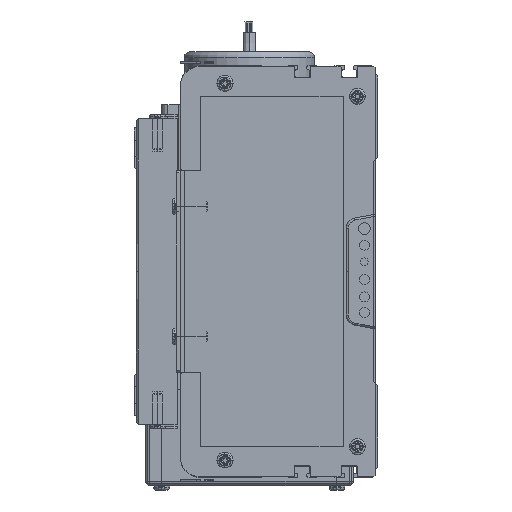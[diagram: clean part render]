
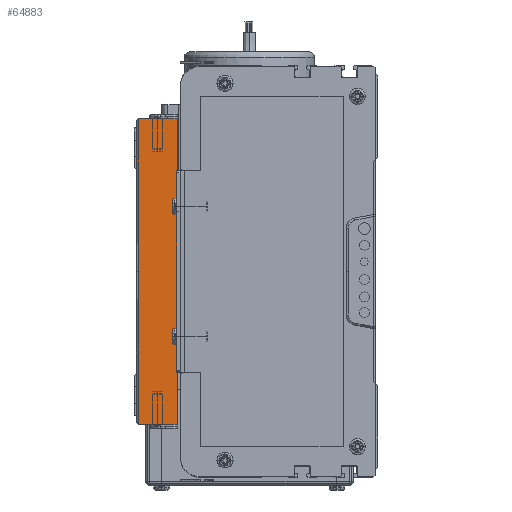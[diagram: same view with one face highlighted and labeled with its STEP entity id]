
A CAD part, left-side view. The second image highlights one B-rep face of the part: STEP entity #64883.
In plain terms, the highlighted planar face has unit normal (-1, 0, 0).
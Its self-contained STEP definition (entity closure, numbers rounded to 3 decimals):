
#57944 = DIRECTION ( 'NONE',  ( 0., 0., 1. ) ) ;
#57945 = VECTOR ( 'NONE', #57944, 1000. ) ;
#57946 = CARTESIAN_POINT ( 'NONE',  ( 0., 0., 0. ) ) ;
#57947 = LINE ( 'NONE', #57946, #57945 ) ;
#57974 = CARTESIAN_POINT ( 'NONE',  ( 0., 0., 75. ) ) ;
#58120 = DIRECTION ( 'NONE',  ( 0., -1., 0. ) ) ;
#58246 = VECTOR ( 'NONE', #58120, 1000. ) ;
#58409 = LINE ( 'NONE', #58523, #58246 ) ;
#58482 = CARTESIAN_POINT ( 'NONE',  ( 0., 19., 75. ) ) ;
#58523 = CARTESIAN_POINT ( 'NONE',  ( 0., 20., 75. ) ) ;
#59399 = DIRECTION ( 'NONE',  ( 0., 0., -1. ) ) ;
#59400 = DIRECTION ( 'NONE',  ( 1., 0., 0. ) ) ;
#59497 = AXIS2_PLACEMENT_3D ( 'NONE', #59505, #59400, #59399 ) ;
#59505 = CARTESIAN_POINT ( 'NONE',  ( 0., 20., 0. ) ) ;
#59538 = FACE_OUTER_BOUND ( 'NONE', #65061, .T. ) ;
#59572 = PLANE ( 'NONE',  #59497 ) ;
#59756 = CARTESIAN_POINT ( 'NONE',  ( 0., 0., -75. ) ) ;
#59911 = CARTESIAN_POINT ( 'NONE',  ( 0., 19., 0. ) ) ;
#59912 = LINE ( 'NONE', #59911, #60220 ) ;
#60050 = DIRECTION ( 'NONE',  ( 0., -1., 0. ) ) ;
#60051 = VECTOR ( 'NONE', #60050, 1000. ) ;
#60053 = CARTESIAN_POINT ( 'NONE',  ( 0., 20., -75. ) ) ;
#60074 = CARTESIAN_POINT ( 'NONE',  ( 0., 19., 0. ) ) ;
#60076 = LINE ( 'NONE', #60074, #60191 ) ;
#60080 = CARTESIAN_POINT ( 'NONE',  ( 0., 19., 0. ) ) ;
#60121 = LINE ( 'NONE', #60053, #60051 ) ;
#60190 = DIRECTION ( 'NONE',  ( 0., 0., -1. ) ) ;
#60191 = VECTOR ( 'NONE', #60190, 1000. ) ;
#60219 = DIRECTION ( 'NONE',  ( 0., 0., -1. ) ) ;
#60220 = VECTOR ( 'NONE', #60219, 1000. ) ;
#60604 = CARTESIAN_POINT ( 'NONE',  ( 0., 19., -75. ) ) ;
#64703 = EDGE_CURVE ( 'NONE', #64838, #64729, #57947, .T. ) ;
#64729 = VERTEX_POINT ( 'NONE', #57974 ) ;
#64740 = VERTEX_POINT ( 'NONE', #58482 ) ;
#64745 = EDGE_CURVE ( 'NONE', #64740, #64729, #58409, .T. ) ;
#64838 = VERTEX_POINT ( 'NONE', #59756 ) ;
#64883 = ADVANCED_FACE ( 'NONE', ( #59538 ), #59572, .F. ) ;
#64921 = VERTEX_POINT ( 'NONE', #60080 ) ;
#64923 = ORIENTED_EDGE ( 'NONE', *, *, #64943, .T. ) ;
#64924 = EDGE_CURVE ( 'NONE', #64921, #65056, #60076, .T. ) ;
#64939 = EDGE_CURVE ( 'NONE', #65056, #64838, #60121, .T. ) ;
#64943 = EDGE_CURVE ( 'NONE', #64740, #64921, #59912, .T. ) ;
#64960 = ORIENTED_EDGE ( 'NONE', *, *, #64924, .T. ) ;
#64965 = ORIENTED_EDGE ( 'NONE', *, *, #64703, .T. ) ;
#64968 = ORIENTED_EDGE ( 'NONE', *, *, #64939, .T. ) ;
#65056 = VERTEX_POINT ( 'NONE', #60604 ) ;
#65061 = EDGE_LOOP ( 'NONE', ( #65097, #64923, #64960, #64968, #64965 ) ) ;
#65097 = ORIENTED_EDGE ( 'NONE', *, *, #64745, .F. ) ;
